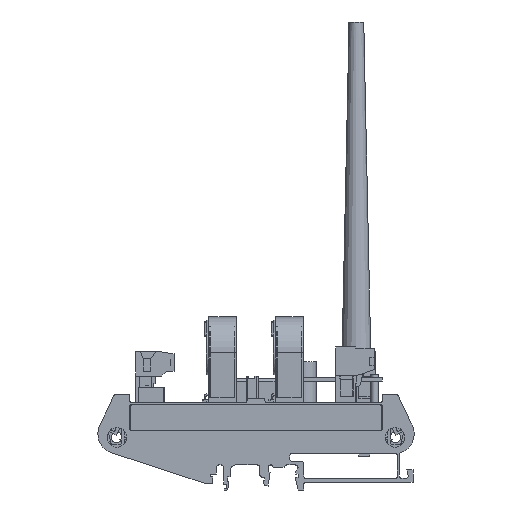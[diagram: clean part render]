
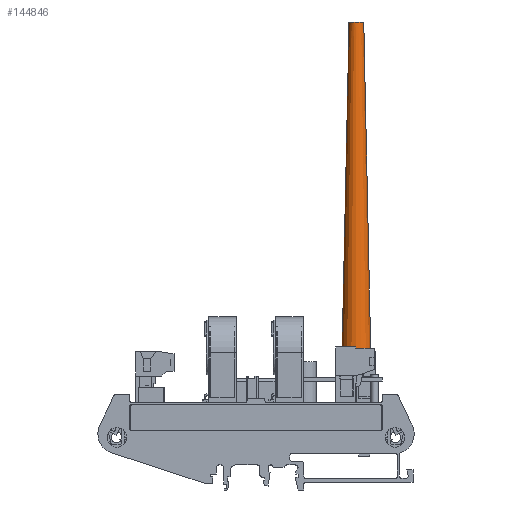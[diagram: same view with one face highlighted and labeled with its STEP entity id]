
A CAD part, left-side view. The second image highlights one B-rep face of the part: STEP entity #144846.
In plain terms, the highlighted conical face has half-angle 1.236 degrees and reference radius 6 mm.
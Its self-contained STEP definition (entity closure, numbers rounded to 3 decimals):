
#144846 = ADVANCED_FACE('',(#144847),#144860,.T.);
#144847 = FACE_BOUND('',#144848,.T.);
#144848 = EDGE_LOOP('',(#144849,#144883,#144906,#144933));
#144849 = ORIENTED_EDGE('',*,*,#144850,.F.);
#144850 = EDGE_CURVE('',#144851,#144851,#144853,.T.);
#144851 = VERTEX_POINT('',#144852);
#144852 = CARTESIAN_POINT('',(3.,0.,139.));
#144853 = SURFACE_CURVE('',#144854,(#144859,#144871),.PCURVE_S1.);
#144854 = CIRCLE('',#144855,3.);
#144855 = AXIS2_PLACEMENT_3D('',#144856,#144857,#144858);
#144856 = CARTESIAN_POINT('',(0.,0.,139.));
#144857 = DIRECTION('',(0.,0.,1.));
#144858 = DIRECTION('',(1.,0.,-0.));
#144859 = PCURVE('',#144860,#144865);
#144860 = CONICAL_SURFACE('',#144861,6.,0.022);
#144861 = AXIS2_PLACEMENT_3D('',#144862,#144863,#144864);
#144862 = CARTESIAN_POINT('',(0.,0.,0.));
#144863 = DIRECTION('',(-0.,-0.,-1.));
#144864 = DIRECTION('',(1.,0.,-0.));
#144865 = DEFINITIONAL_REPRESENTATION('',(#144866),#144870);
#144866 = LINE('',#144867,#144868);
#144867 = CARTESIAN_POINT('',(-0.,-139.));
#144868 = VECTOR('',#144869,1.);
#144869 = DIRECTION('',(-1.,-0.));
#144870 = ( GEOMETRIC_REPRESENTATION_CONTEXT(2) 
PARAMETRIC_REPRESENTATION_CONTEXT() REPRESENTATION_CONTEXT('2D SPACE',''
  ) );
#144871 = PCURVE('',#144872,#144877);
#144872 = PLANE('',#144873);
#144873 = AXIS2_PLACEMENT_3D('',#144874,#144875,#144876);
#144874 = CARTESIAN_POINT('',(0.,0.,139.));
#144875 = DIRECTION('',(0.,0.,1.));
#144876 = DIRECTION('',(1.,0.,-0.));
#144877 = DEFINITIONAL_REPRESENTATION('',(#144878),#144882);
#144878 = CIRCLE('',#144879,3.);
#144879 = AXIS2_PLACEMENT_2D('',#144880,#144881);
#144880 = CARTESIAN_POINT('',(0.,0.));
#144881 = DIRECTION('',(1.,0.));
#144882 = ( GEOMETRIC_REPRESENTATION_CONTEXT(2) 
PARAMETRIC_REPRESENTATION_CONTEXT() REPRESENTATION_CONTEXT('2D SPACE',''
  ) );
#144883 = ORIENTED_EDGE('',*,*,#144884,.F.);
#144884 = EDGE_CURVE('',#144885,#144851,#144887,.T.);
#144885 = VERTEX_POINT('',#144886);
#144886 = CARTESIAN_POINT('',(6.,0.,0.));
#144887 = SEAM_CURVE('',#144888,(#144892,#144899),.PCURVE_S1.);
#144888 = LINE('',#144889,#144890);
#144889 = CARTESIAN_POINT('',(6.,0.,0.));
#144890 = VECTOR('',#144891,1.);
#144891 = DIRECTION('',(-0.022,0.,1.));
#144892 = PCURVE('',#144860,#144893);
#144893 = DEFINITIONAL_REPRESENTATION('',(#144894),#144898);
#144894 = LINE('',#144895,#144896);
#144895 = CARTESIAN_POINT('',(-6.283,0.));
#144896 = VECTOR('',#144897,1.);
#144897 = DIRECTION('',(-0.,-1.));
#144898 = ( GEOMETRIC_REPRESENTATION_CONTEXT(2) 
PARAMETRIC_REPRESENTATION_CONTEXT() REPRESENTATION_CONTEXT('2D SPACE',''
  ) );
#144899 = PCURVE('',#144860,#144900);
#144900 = DEFINITIONAL_REPRESENTATION('',(#144901),#144905);
#144901 = LINE('',#144902,#144903);
#144902 = CARTESIAN_POINT('',(0.,-0.));
#144903 = VECTOR('',#144904,1.);
#144904 = DIRECTION('',(-0.,-1.));
#144905 = ( GEOMETRIC_REPRESENTATION_CONTEXT(2) 
PARAMETRIC_REPRESENTATION_CONTEXT() REPRESENTATION_CONTEXT('2D SPACE',''
  ) );
#144906 = ORIENTED_EDGE('',*,*,#144907,.T.);
#144907 = EDGE_CURVE('',#144885,#144885,#144908,.T.);
#144908 = SURFACE_CURVE('',#144909,(#144914,#144921),.PCURVE_S1.);
#144909 = CIRCLE('',#144910,6.);
#144910 = AXIS2_PLACEMENT_3D('',#144911,#144912,#144913);
#144911 = CARTESIAN_POINT('',(0.,0.,0.));
#144912 = DIRECTION('',(0.,0.,1.));
#144913 = DIRECTION('',(1.,0.,-0.));
#144914 = PCURVE('',#144860,#144915);
#144915 = DEFINITIONAL_REPRESENTATION('',(#144916),#144920);
#144916 = LINE('',#144917,#144918);
#144917 = CARTESIAN_POINT('',(-0.,-0.));
#144918 = VECTOR('',#144919,1.);
#144919 = DIRECTION('',(-1.,-0.));
#144920 = ( GEOMETRIC_REPRESENTATION_CONTEXT(2) 
PARAMETRIC_REPRESENTATION_CONTEXT() REPRESENTATION_CONTEXT('2D SPACE',''
  ) );
#144921 = PCURVE('',#144922,#144927);
#144922 = PLANE('',#144923);
#144923 = AXIS2_PLACEMENT_3D('',#144924,#144925,#144926);
#144924 = CARTESIAN_POINT('',(0.,0.,0.));
#144925 = DIRECTION('',(0.,0.,1.));
#144926 = DIRECTION('',(1.,0.,-0.));
#144927 = DEFINITIONAL_REPRESENTATION('',(#144928),#144932);
#144928 = CIRCLE('',#144929,6.);
#144929 = AXIS2_PLACEMENT_2D('',#144930,#144931);
#144930 = CARTESIAN_POINT('',(0.,0.));
#144931 = DIRECTION('',(1.,0.));
#144932 = ( GEOMETRIC_REPRESENTATION_CONTEXT(2) 
PARAMETRIC_REPRESENTATION_CONTEXT() REPRESENTATION_CONTEXT('2D SPACE',''
  ) );
#144933 = ORIENTED_EDGE('',*,*,#144884,.T.);
